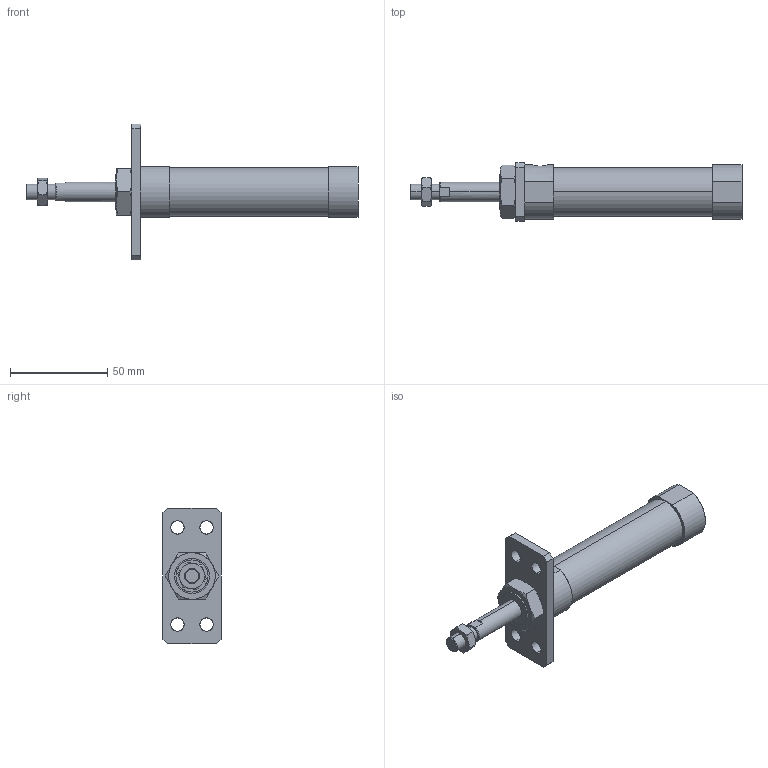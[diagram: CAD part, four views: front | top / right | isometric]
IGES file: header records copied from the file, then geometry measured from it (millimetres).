
Start section: SolidWorks IGES file using analytic representation for surfaces
Global section: file name: C:\Users\Toshiba\Desktop\JGND0-20-25-A.IGS; native system: SolidWorks 2014; preprocessor: SolidWorks 2014; author: Toshiba; date: 160804.100332; units: millimetre
Bounding box: 171 x 30 x 70 mm (x, y, z)
Surface area: 19915.9 mm2 (no closed solid volume)
Topology: 0 solids, 0 shells, 101 faces, 1770 edges, 1770 vertices
Faces by surface type: bspline 67, revolution 34
